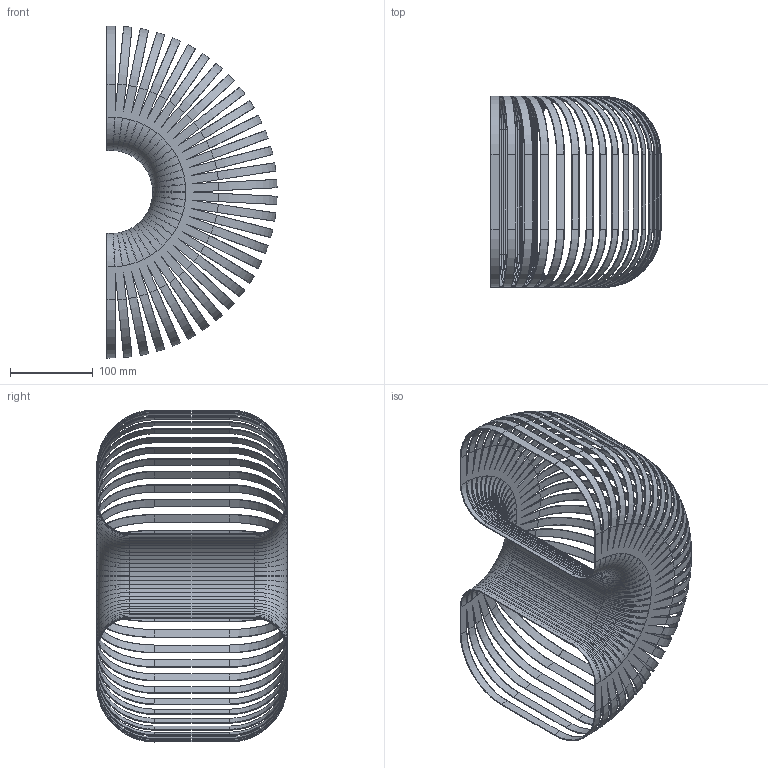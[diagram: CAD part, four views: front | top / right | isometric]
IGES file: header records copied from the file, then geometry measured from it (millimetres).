
Start section: SolidWorks IGES file using analytic representation for surfaces
Global section: file name: C:\Users\danielet\Desktop\3D CARLOS\MIRTA\MIRTA-A3055-3D.IGS; native system: SolidWorks 2018; preprocessor: SolidWorks 2018; author: danielet; date: 220107.133332; units: millimetre
Bounding box: 205 x 230 x 400 mm (x, y, z)
Surface area: 379212.2 mm2 (no closed solid volume)
Topology: 0 solids, 0 shells, 700 faces, 14472 edges, 14472 vertices
Faces by surface type: revolution 380, bspline 320
